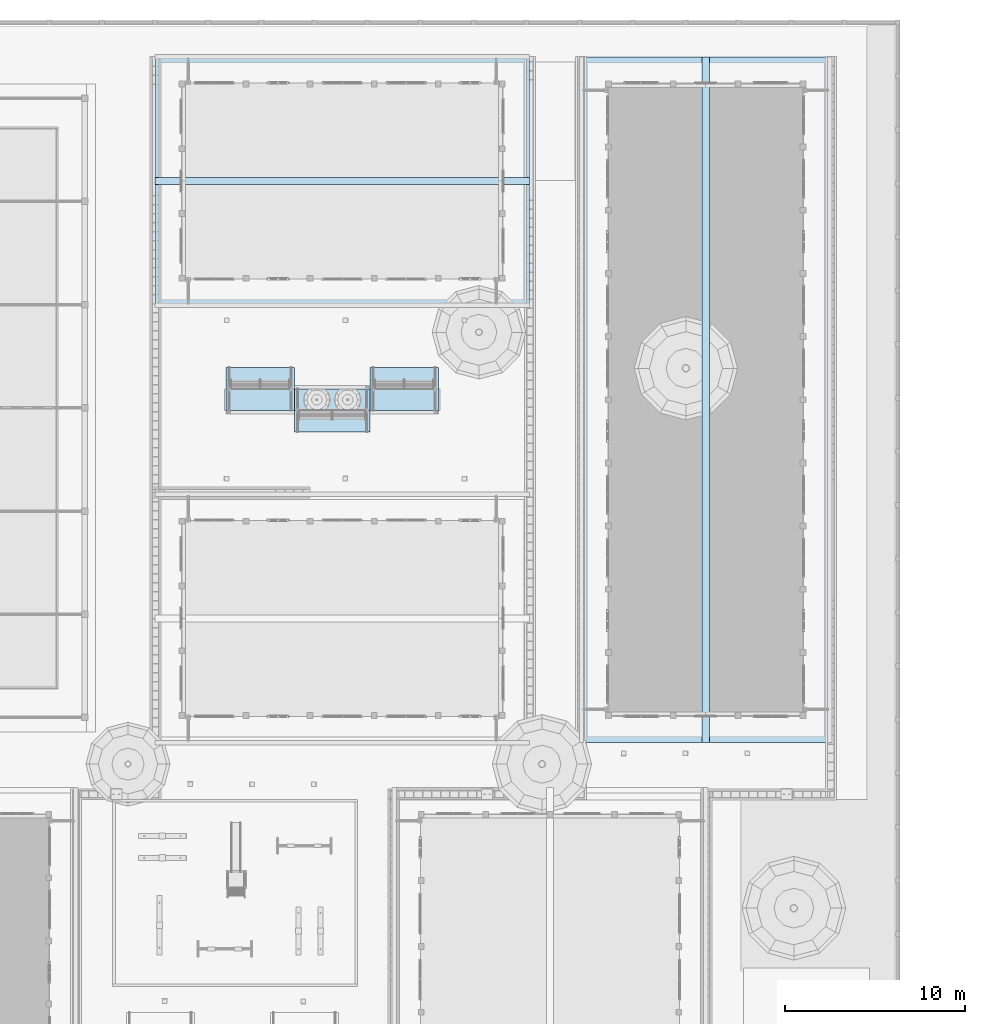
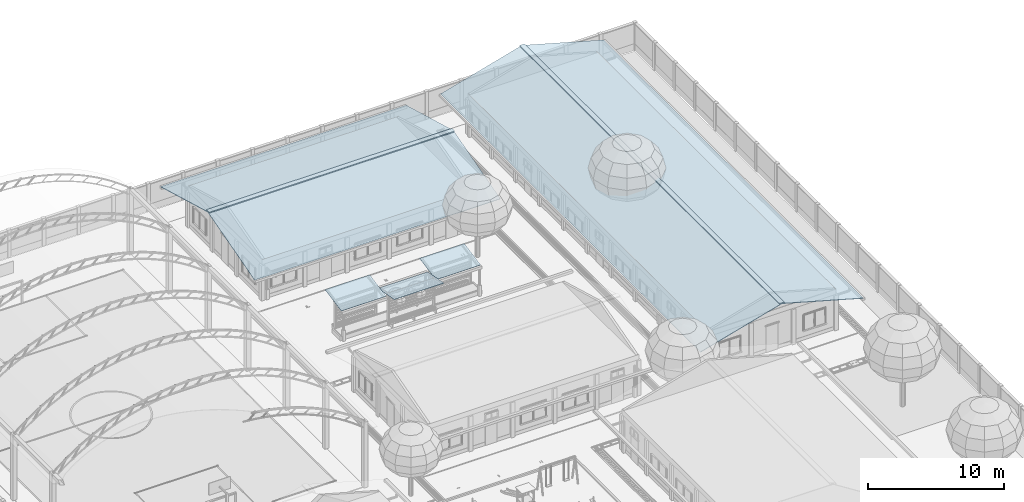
# One storey, part 34 of 166: 7 roofs.
"""IFC2X3 building model written with IfcOpenShell, lengths in metres."""

from ifc_helpers import new_model, si_unit, origin, origin_with_axes, place, context, subcontext, project, spatial, faceted_brep, element, save


model = new_model("IFC2X3")

# Units and contexts
model_context = context("Model", 3, precision=1e-05, world=origin_with_axes())
body_context = subcontext(model_context, "Body", "Model", "MODEL_VIEW")
ifc_project = project(units=[si_unit("LENGTHUNIT", "METRE"), si_unit("AREAUNIT", "SQUARE_METRE"), si_unit("VOLUMEUNIT", "CUBIC_METRE"), si_unit("PLANEANGLEUNIT", "RADIAN")], contexts=[model_context])

# Site, building, storey
site_placement = place(None, origin_with_axes())
site = spatial("IfcSite", under=ifc_project, at=site_placement, Name="Predio Los Mangos - Morales, San Martín", CompositionType="ELEMENT")
building_placement = place(site_placement, origin())
building = spatial("IfcBuilding", under=site, at=building_placement, Name="Hogar de Refugio Temporal", CompositionType="ELEMENT")
storey_placement = place(building_placement, origin())
storey = spatial("IfcBuildingStorey", under=building, at=storey_placement, Name="NIVEL 1 (NPT +0.00)", CompositionType="ELEMENT", Elevation=0.0)

# Roofs
roof_1_placement = place(storey_placement, origin())
element("IfcRoof", 1, at=roof_1_placement, inside=storey, Name="E-08_techo", ObjectType="Cobertura", ShapeType="NOTDEFINED", context=body_context, shape_type="Brep", body=[
    faceted_brep([(30.5, 115.5, 3.33), (51.3, 115.5, 3.33), (51.3, 122.4, 5.262), (30.5, 122.4, 5.262), (51.3, 129.3, 3.33), (30.5, 129.3, 3.33), (30.5, 115.5135, 3.2819), (30.5, 122.4, 5.212), (51.3, 122.4, 5.212), (51.3, 115.5135, 3.2819), (30.5, 129.2865, 3.2819), (51.3, 129.2865, 3.2819)], [[[0, 1, 2, 3]], [[3, 2, 4, 5]], [[6, 7, 8, 9]], [[7, 10, 11, 8]], [[0, 3, 7, 6]], [[1, 0, 6, 9]], [[2, 1, 9, 8]], [[3, 5, 10, 7]], [[4, 2, 8, 11]], [[5, 4, 11, 10]]]),
])
roof_2_placement = place(storey_placement, origin())
element("IfcRoof", 2, at=roof_2_placement, inside=storey, Name="E-08_cumbrera", ObjectType="Cobertura", ShapeType="NOTDEFINED", context=body_context, shape_type="Brep", body=[
    faceted_brep([(30.5, 122.2, 5.242), (30.5, 122.6, 5.242), (51.3, 122.6, 5.242), (51.3, 122.2, 5.242), (30.5, 122.2, 5.322), (51.3, 122.2, 5.322), (51.3, 122.6, 5.322), (30.5, 122.6, 5.322)], [[[0, 1, 2, 3]], [[4, 5, 6, 7]], [[0, 3, 5, 4]], [[3, 2, 6, 5]], [[2, 1, 7, 6]], [[1, 0, 4, 7]]]),
])
roof_3_placement = place(storey_placement, origin())
element("IfcRoof", 3, at=roof_3_placement, inside=storey, Name="E-07_techo", ObjectType="Cobertura", ShapeType="NOTDEFINED", context=body_context, shape_type="Brep", body=[
    faceted_brep([(54.2, 91.2, 3.33), (61.1, 91.2, 5.262), (61.1, 129.3, 5.262), (54.2, 129.3, 3.33), (68.0, 91.2, 3.33), (68.0, 129.3, 3.33), (54.2135, 91.2, 3.2819), (54.2135, 129.3, 3.2819), (61.1, 129.3, 5.212), (61.1, 91.2, 5.212), (67.9865, 129.3, 3.2819), (67.9865, 91.2, 3.2819)], [[[0, 1, 2, 3]], [[1, 4, 5, 2]], [[6, 7, 8, 9]], [[9, 8, 10, 11]], [[0, 3, 7, 6]], [[1, 0, 6, 9]], [[3, 2, 8, 7]], [[4, 1, 9, 11]], [[5, 4, 11, 10]], [[2, 5, 10, 8]]]),
])
roof_4_placement = place(storey_placement, origin())
element("IfcRoof", 4, at=roof_4_placement, inside=storey, Name="E-07_cumbrera", ObjectType="Cobertura", ShapeType="NOTDEFINED", context=body_context, shape_type="Brep", body=[
    faceted_brep([(60.9, 91.2, 5.242), (60.9, 129.3, 5.242), (61.3, 129.3, 5.242), (61.3, 91.2, 5.242), (60.9, 91.2, 5.322), (61.3, 91.2, 5.322), (61.3, 129.3, 5.322), (60.9, 129.3, 5.322)], [[[0, 1, 2, 3]], [[4, 5, 6, 7]], [[0, 3, 5, 4]], [[3, 2, 6, 5]], [[2, 1, 7, 6]], [[1, 0, 4, 7]]]),
])
roof_5_placement = place(storey_placement, origin())
element("IfcRoof", 5, at=roof_5_placement, inside=storey, Name="oc01_cobertura_aluzinc", ObjectType="Cobertura", ShapeType="NOTDEFINED", context=body_context, shape_type="Brep", body=[
    faceted_brep([(46.245, 109.65, 2.7), (42.455, 109.65, 2.7), (42.455, 112.05, 3.16), (46.245, 112.05, 3.16), (46.245, 109.6444, 2.7295), (46.245, 112.0444, 3.1895), (42.455, 112.0444, 3.1895), (42.455, 109.6444, 2.7295)], [[[0, 1, 2, 3]], [[4, 5, 6, 7]], [[0, 3, 5, 4]], [[1, 0, 4, 7]], [[2, 1, 7, 6]], [[3, 2, 6, 5]]]),
])
roof_6_placement = place(storey_placement, origin())
element("IfcRoof", 6, at=roof_6_placement, inside=storey, Name="oc01_cobertura_aluzinc", ObjectType="Cobertura", ShapeType="NOTDEFINED", context=body_context, shape_type="Brep", body=[
    faceted_brep([(42.455, 110.85, 2.7), (38.245, 110.85, 2.7), (38.245, 108.45, 3.16), (42.455, 108.45, 3.16), (42.455, 110.8444, 2.6705), (42.455, 108.4444, 3.1305), (38.245, 108.4444, 3.1305), (38.245, 110.8444, 2.6705)], [[[0, 1, 2, 3]], [[4, 5, 6, 7]], [[0, 3, 5, 4]], [[1, 0, 4, 7]], [[2, 1, 7, 6]], [[3, 2, 6, 5]]]),
])
roof_7_placement = place(storey_placement, origin())
element("IfcRoof", 7, at=roof_7_placement, inside=storey, Name="oc01_cobertura_aluzinc", ObjectType="Cobertura", ShapeType="NOTDEFINED", context=body_context, shape_type="Brep", body=[
    faceted_brep([(38.245, 109.65, 2.7), (34.455, 109.65, 2.7), (34.455, 112.05, 3.16), (38.245, 112.05, 3.16), (38.245, 109.6444, 2.7295), (38.245, 112.0444, 3.1895), (34.455, 112.0444, 3.1895), (34.455, 109.6444, 2.7295)], [[[0, 1, 2, 3]], [[4, 5, 6, 7]], [[0, 3, 5, 4]], [[1, 0, 4, 7]], [[2, 1, 7, 6]], [[3, 2, 6, 5]]]),
])

save(model, "model.ifc")
